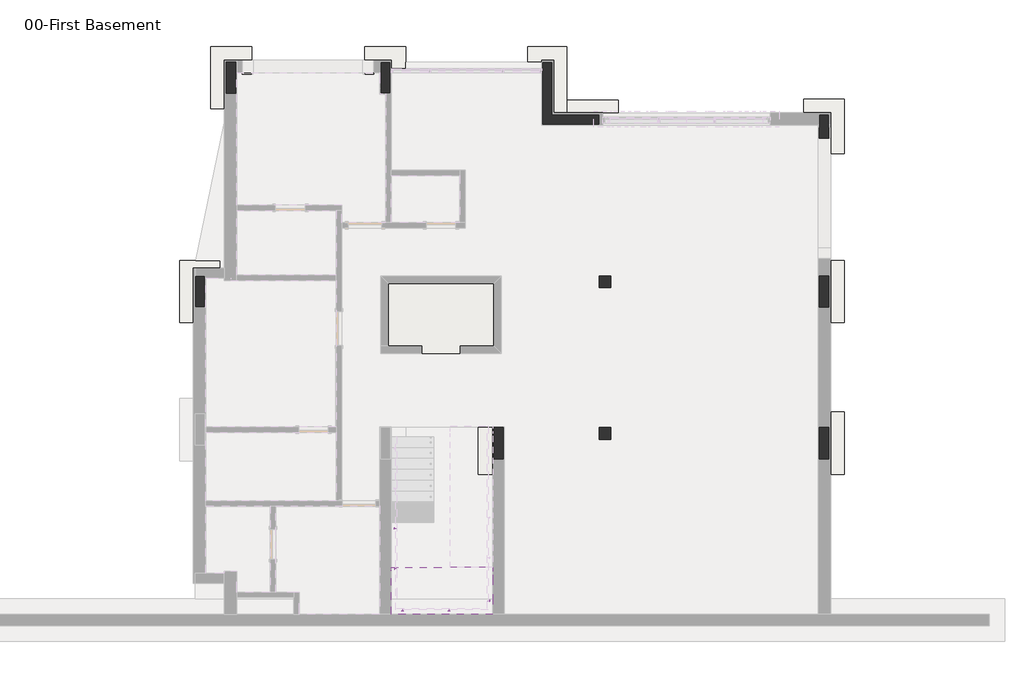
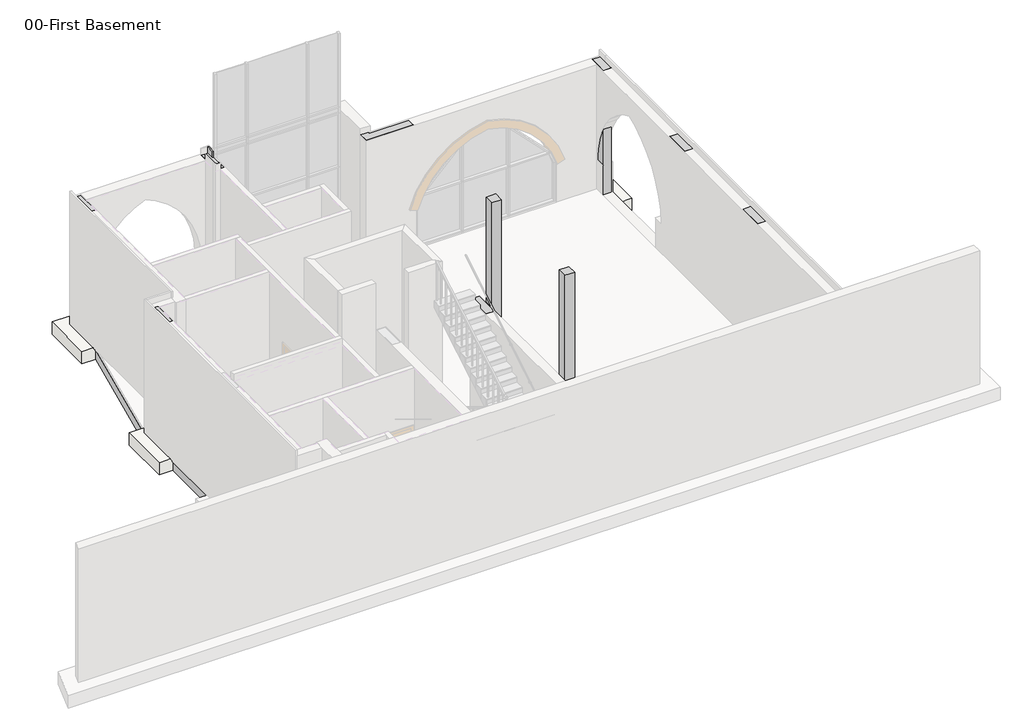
# One storey, part 4 of 5: 21 beams, 11 slabs, 10 columns, 5 proxies, 2 footings.
"""IFC4 building model written with IfcOpenShell, lengths in millimetres."""

from ifc_helpers import new_model, si_unit, frame, origin, place, context, project, spatial, polyline, outline, extrude, faceted_brep, transform, mapped, element, save
from components import m_support_metal_circular_m_support_metal_circular_cf76aa7a, structural_columns_first_basement_structural_columns_first_f4fd8d2e

model = new_model("IFC4")

# Units and contexts
model_context = context("Model", 3, world=origin())
ifc_project = project(units=[si_unit("LENGTHUNIT", "METRE", prefix="MILLI")], contexts=[model_context])

# Site, building, storey
site = spatial("IfcSite", under=ifc_project)
building = spatial("IfcBuilding", under=site)
storey = spatial("IfcBuildingStorey", under=building, Name="00-First Basement", Elevation=-4350.0)

# Beams
placement = place(None, origin())
element("IfcBeam", 1, ObjectType="M_Concrete-Rectangular Beam : 200 x 400mm", at=placement, inside=storey, context=model_context, shape_type="SweptSolid", body=[
    extrude(outline(polyline([(-14055.5689025, -1166.1034696), (-13855.5689025, -1166.1034696), (-13855.5689025, -3118.0271687), (-14055.5689025, -3118.0271687), (-14055.5689025, -1166.1034696)])), frame((0.0, 0.0, -4750.0), z_axis=(0.0, 0.0, 1.0), x_axis=(1.0, 0.0, 0.0)), (0.0, 0.0, 1.0), 300.0),
])
element("IfcBeam", 2, ObjectType="M_Concrete-Rectangular Beam : 200 x 400mm", at=placement, inside=storey, context=model_context, shape_type="Brep", body=[
    faceted_brep([(-13853.4825203, 433.8965304, -4750.0), (-13052.6714668, 4333.8965304, -4750.0), (-13052.6714668, 4333.8965304, -4450.0), (-13853.4825203, 433.8965304, -4450.0), (-13256.8442311, 4333.8965304, -4750.0), (-14057.6552846, 433.8965304, -4750.0), (-14057.6552846, 433.8965304, -4450.0), (-13280.5689025, 4218.3558946, -4450.0), (-13256.8442311, 4333.8965304, -4450.0)], [[[0, 1, 2, 3]], [[4, 1, 0, 5]], [[4, 5, 6, 7, 8]], [[1, 4, 8, 2]], [[5, 0, 3, 6]], [[3, 2, 8, 7, 6]]]),
])
element("IfcBeam", 3, ObjectType="M_Concrete-Rectangular Beam : 200 x 400mm", at=placement, inside=storey, context=model_context, shape_type="SweptSolid", body=[
    extrude(outline(polyline([(-12630.5689025, 5033.8965304), (-12630.5689025, 5233.8965304), (-9715.0580776, 5233.8965304), (-9715.0580776, 5033.8965304), (-12630.5689025, 5033.8965304)])), frame((0.0, 0.0, -4750.0), z_axis=(0.0, 0.0, 1.0), x_axis=(1.0, 0.0, 0.0)), (0.0, 0.0, 1.0), 300.0),
])
element("IfcBeam", 4, ObjectType="M_Concrete-Rectangular Beam : 200 x 400mm", at=placement, inside=storey, context=model_context, shape_type="SweptSolid", body=[
    extrude(outline(polyline([(-8665.0580776, 5033.8965304), (-8665.0580776, 5233.8965304), (-5532.8802351, 5233.8965304), (-5532.8802351, 5033.8965304), (-8665.0580776, 5033.8965304)])), frame((0.0, 0.0, -4750.0), z_axis=(0.0, 0.0, 1.0), x_axis=(1.0, 0.0, 0.0)), (0.0, 0.0, 1.0), 300.0),
])
element("IfcBeam", 5, ObjectType="M_Concrete-Rectangular Beam : 200 x 400mm", at=placement, inside=storey, context=model_context, shape_type="SweptSolid", body=[
    extrude(outline(polyline([(-3450.6988602, 433.8965304), (-3650.6988602, 433.8965304), (-3650.6988602, 3551.127499), (-3450.6988602, 3551.127499), (-3450.6988602, 433.8965304)])), frame((0.0, 0.0, -4750.0), z_axis=(0.0, 0.0, 1.0), x_axis=(1.0, 0.0, 0.0)), (0.0, 0.0, 1.0), 300.0),
])
element("IfcBeam", 6, ObjectType="M_Concrete-Rectangular Beam : 200 x 400mm", at=placement, inside=storey, context=model_context, shape_type="SweptSolid", body=[
    extrude(outline(polyline([(-4750.0, -5810.6988602), (-4750.0, -4100.6988602), (-4450.0, -4100.6988602), (-4450.0, -5807.8802351), (-4550.0, -5807.8802351), (-4550.0, -5810.6988602), (-4750.0, -5810.6988602)])), frame((0.0, -216.1034696, 0.0), z_axis=(0.0, 1.0, 0.0), x_axis=(0.0, 0.0, 1.0)), (0.0, 0.0, 1.0), 200.0),
])
element("IfcBeam", 7, ObjectType="M_Concrete-Rectangular Beam : 200 x 400mm", at=placement, inside=storey, context=model_context, shape_type="SweptSolid", body=[
    extrude(outline(polyline([(1556.4825148, -16.1034696), (1556.4825148, -216.1034696), (-3000.6988602, -216.1034696), (-3000.6988602, -16.1034696), (1556.4825148, -16.1034696)])), frame((0.0, 0.0, -4750.0), z_axis=(0.0, 0.0, 1.0), x_axis=(1.0, 0.0, 0.0)), (0.0, 0.0, 1.0), 300.0),
])
element("IfcBeam", 8, ObjectType="M_Concrete-Rectangular Beam : 200 x 400mm", at=placement, inside=storey, context=model_context, shape_type="SweptSolid", body=[
    extrude(outline(polyline([(2181.4825148, -3466.5009541), (1981.4825148, -3466.5009541), (1981.4825148, -1166.1034696), (2181.4825148, -1166.1034696), (2181.4825148, -3466.5009541)])), frame((0.0, 0.0, -4750.0), z_axis=(0.0, 0.0, 1.0), x_axis=(1.0, 0.0, 0.0)), (0.0, 0.0, 1.0), 300.0),
])
element("IfcBeam", 9, ObjectType="M_Concrete-Rectangular Beam : 200 x 400mm", at=placement, inside=storey, context=model_context, shape_type="SweptSolid", body=[
    extrude(outline(polyline([(-3650.6988602, -4566.5009541), (-3450.6988602, -4566.5009541), (-3450.6988602, -8262.9805769), (-3650.6988602, -8262.9805769), (-3650.6988602, -4566.5009541)])), frame((0.0, 0.0, -4750.0), z_axis=(0.0, 0.0, 1.0), x_axis=(1.0, 0.0, 0.0)), (0.0, 0.0, 1.0), 300.0),
])
element("IfcBeam", 10, ObjectType="M_Concrete-Rectangular Beam : 200 x 400mm", at=placement, inside=storey, context=model_context, shape_type="SweptSolid", body=[
    extrude(outline(polyline([(-6382.8802351, -5066.5009541), (-6182.8802351, -5066.5009541), (-6182.8802351, -8262.9805769), (-6382.8802351, -8262.9805769), (-6382.8802351, -5066.5009541)])), frame((0.0, 0.0, -4750.0), z_axis=(0.0, 0.0, 1.0), x_axis=(1.0, 0.0, 0.0)), (0.0, 0.0, 1.0), 300.0),
])
element("IfcBeam", 11, ObjectType="M_Concrete-Rectangular Beam : 200 x 400mm", at=placement, inside=storey, context=model_context, shape_type="SweptSolid", body=[
    extrude(outline(polyline([(-3650.6988602, -666.1034696), (-3450.6988602, -666.1034696), (-3450.6988602, -3466.5009541), (-3650.6988602, -3466.5009541), (-3650.6988602, -666.1034696)])), frame((0.0, 0.0, -4750.0), z_axis=(0.0, 0.0, 1.0), x_axis=(1.0, 0.0, 0.0)), (0.0, 0.0, 1.0), 300.0),
])
element("IfcBeam", 12, ObjectType="M_Concrete-Rectangular Beam : 200 x 400mm", at=placement, inside=storey, context=model_context, shape_type="SweptSolid", body=[
    extrude(outline(polyline([(-2365.2824965, -4750.0), (-3466.5009541, -4750.0), (-3466.5009541, -4450.0), (-2366.1034696, -4450.0), (-2366.1034696, -4550.0), (-2365.2824965, -4550.0), (-2365.2824965, -4750.0)])), frame((-6382.8802351, 0.0, 0.0), z_axis=(1.0, 0.0, 0.0), x_axis=(0.0, 1.0, 0.0)), (0.0, 0.0, 1.0), 200.0),
])
element("IfcBeam", 13, ObjectType="M_Concrete-Rectangular Beam : 200 x 400mm", at=placement, inside=storey, context=model_context, shape_type="SweptSolid", body=[
    extrude(outline(polyline([(-9290.0580776, -2366.1034696), (-9090.0580776, -2366.1034696), (-9090.0580776, -3466.5009541), (-9290.0580776, -3466.5009541), (-9290.0580776, -2366.1034696)])), frame((0.0, 0.0, -4750.0), z_axis=(0.0, 0.0, 1.0), x_axis=(1.0, 0.0, 0.0)), (0.0, 0.0, 1.0), 300.0),
])
element("IfcBeam", 14, ObjectType="M_Concrete-Rectangular Beam : 200 x 400mm", at=placement, inside=storey, context=model_context, shape_type="SweptSolid", body=[
    extrude(outline(polyline([(-8665.0580776, -4116.5009541), (-8665.0580776, -3916.5009541), (-6807.8802351, -3916.5009541), (-6807.8802351, -4116.5009541), (-8665.0580776, -4116.5009541)])), frame((0.0, 0.0, -4750.0), z_axis=(0.0, 0.0, 1.0), x_axis=(1.0, 0.0, 0.0)), (0.0, 0.0, 1.0), 300.0),
])
element("IfcBeam", 15, ObjectType="M_Concrete-Rectangular Beam : 200 x 400mm", at=placement, inside=storey, context=model_context, shape_type="SweptSolid", body=[
    extrude(outline(polyline([(-5757.8802351, -4116.5009541), (-5757.8802351, -3916.5009541), (-4100.6988602, -3916.5009541), (-4100.6988602, -4116.5009541), (-5757.8802351, -4116.5009541)])), frame((0.0, 0.0, -4750.0), z_axis=(0.0, 0.0, 1.0), x_axis=(1.0, 0.0, 0.0)), (0.0, 0.0, 1.0), 300.0),
])
element("IfcBeam", 16, ObjectType="M_Concrete-Rectangular Beam : 200 x 400mm", at=placement, inside=storey, context=model_context, shape_type="SweptSolid", body=[
    extrude(outline(polyline([(1556.4825148, -3916.5009541), (1556.4825148, -4116.5009541), (-3000.6988602, -4116.5009541), (-3000.6988602, -3916.5009541), (1556.4825148, -3916.5009541)])), frame((0.0, 0.0, -4750.0), z_axis=(0.0, 0.0, 1.0), x_axis=(1.0, 0.0, 0.0)), (0.0, 0.0, 1.0), 300.0),
])
element("IfcBeam", 17, ObjectType="M_Concrete-Rectangular Beam : 200 x 400mm", at=placement, inside=storey, context=model_context, shape_type="SweptSolid", body=[
    extrude(outline(polyline([(-9090.0580776, 433.8965304), (-9290.0580776, 433.8965304), (-9290.0580776, 4333.8965304), (-9090.0580776, 4333.8965304), (-9090.0580776, 433.8965304)])), frame((0.0, 0.0, -4750.0), z_axis=(0.0, 0.0, 1.0), x_axis=(1.0, 0.0, 0.0)), (0.0, 0.0, 1.0), 300.0),
])
element("IfcBeam", 18, ObjectType="M_Concrete-Rectangular Beam : 200 x 400mm", at=placement, inside=storey, context=model_context, shape_type="SweptSolid", body=[
    extrude(outline(polyline([(-9715.0580776, -16.1034696), (-9715.0580776, -216.1034696), (-13430.5689025, -216.1034696), (-13430.5689025, -16.1034696), (-9715.0580776, -16.1034696)])), frame((0.0, 0.0, -4750.0), z_axis=(0.0, 0.0, 1.0), x_axis=(1.0, 0.0, 0.0)), (0.0, 0.0, 1.0), 300.0),
])
element("IfcBeam", 19, ObjectType="M_Concrete-Rectangular Beam : 200 x 400mm", at=placement, inside=storey, context=model_context, shape_type="SweptSolid", body=[
    extrude(outline(polyline([(2181.4825148, 433.8965304), (1981.4825148, 433.8965304), (1981.4825148, 3176.127499), (2181.4825148, 3176.127499), (2181.4825148, 433.8965304)])), frame((0.0, 0.0, -4750.0), z_axis=(0.0, 0.0, 1.0), x_axis=(1.0, 0.0, 0.0)), (0.0, 0.0, 1.0), 300.0),
])
element("IfcBeam", 20, ObjectType="M_Concrete-Rectangular Beam : 200 x 400mm", at=placement, inside=storey, context=model_context, shape_type="SweptSolid", body=[
    extrude(outline(polyline([(1556.4825148, 4151.127499), (1556.4825148, 3951.127499), (-3200.6988602, 3951.127499), (-3200.6988602, 4151.127499), (1556.4825148, 4151.127499)])), frame((0.0, 0.0, -4750.0), z_axis=(0.0, 0.0, 1.0), x_axis=(1.0, 0.0, 0.0)), (0.0, 0.0, 1.0), 300.0),
])
element("IfcBeam", 21, ObjectType="M_Concrete-Rectangular Beam : 200 x 400mm", at=placement, inside=storey, context=model_context, shape_type="SweptSolid", body=[
    extrude(outline(polyline([(2181.4825148, -8262.9805769), (1981.4825148, -8262.9805769), (1981.4825148, -5066.5009541), (2181.4825148, -5066.5009541), (2181.4825148, -8262.9805769)])), frame((0.0, 0.0, -4750.0), z_axis=(0.0, 0.0, 1.0), x_axis=(1.0, 0.0, 0.0)), (0.0, 0.0, 1.0), 300.0),
])

# Proxies
m_support_metal_circular_m_support_metal_circular_shape = m_support_metal_circular_m_support_metal_circular_cf76aa7a(model_context)
element("IfcBuildingElementProxy", 22, Name="M_Support - Metal - Circular : M_Support - Metal - Circular", ObjectType="M_Support - Metal - Circular : M_Support - Metal - Circular", at=placement, inside=storey, context=model_context, shape_type="MappedRepresentation", body=[
    mapped(m_support_metal_circular_m_support_metal_circular_shape, transform((-8914.3044414, -6461.8731737, -1703.1891764), x_axis=(0.0, 1.0, 0.0), y_axis=(-1.0, 0.0, 0.0), z_axis=(0.0, 0.0, 1.0))),
])
element("IfcBuildingElementProxy", 23, Name="M_Support - Metal - Circular : M_Support - Metal - Circular", ObjectType="M_Support - Metal - Circular : M_Support - Metal - Circular", at=placement, inside=storey, context=model_context, shape_type="MappedRepresentation", body=[
    mapped(m_support_metal_circular_m_support_metal_circular_shape, transform((-8914.3044414, -7496.770337, -1105.0), x_axis=(0.0, 1.0, 0.0), y_axis=(-1.0, 0.0, 0.0), z_axis=(0.0, 0.0, 1.0))),
])
element("IfcBuildingElementProxy", 24, Name="M_Support - Metal - Circular : M_Support - Metal - Circular", ObjectType="M_Support - Metal - Circular : M_Support - Metal - Circular", at=placement, inside=storey, context=model_context, shape_type="MappedRepresentation", body=[
    mapped(m_support_metal_circular_m_support_metal_circular_shape, transform((-8750.1146813, -8532.5805769, -1105.0), x_axis=(-1.0, 0.0, 0.0), y_axis=(0.0, -1.0, 0.0), z_axis=(0.0, 0.0, 1.0))),
])
element("IfcBuildingElementProxy", 25, Name="M_Support - Metal - Circular : M_Support - Metal - Circular", ObjectType="M_Support - Metal - Circular : M_Support - Metal - Circular", at=placement, inside=storey, context=model_context, shape_type="MappedRepresentation", body=[
    mapped(m_support_metal_circular_m_support_metal_circular_shape, transform((-7550.1146813, -8532.5805769, -1105.0), x_axis=(-1.0, 0.0, 0.0), y_axis=(0.0, -1.0, 0.0), z_axis=(0.0, 0.0, 1.0))),
])
element("IfcBuildingElementProxy", 26, Name="M_Support - Metal - Circular : M_Support - Metal - Circular", ObjectType="M_Support - Metal - Circular : M_Support - Metal - Circular", at=placement, inside=storey, context=model_context, shape_type="MappedRepresentation", body=[
    mapped(m_support_metal_circular_m_support_metal_circular_shape, transform((-6558.2802351, -8324.4150231, -1105.0), x_axis=(0.0, -1.0, 0.0), y_axis=(1.0, 0.0, 0.0), z_axis=(0.0, 0.0, 1.0))),
])

# Columns
element("IfcColumn", 27, ObjectType="M_Concrete-Rectangular-Column : 250 x 600mm", at=placement, inside=storey, context=model_context, shape_type="Brep", body=[
    faceted_brep([(2206.4825148, 4176.127499, -4350.0), (2206.4825148, 3906.127499, -4350.0), (2206.4825148, 3576.127499, -4350.0), (1956.4825148, 3576.127499, -4350.0), (1956.4825148, 3906.127499, -4350.0), (1956.4825148, 4176.127499, -4350.0), (2206.4825148, 4176.127499, -200.0), (2206.4825148, 3576.127499, -200.0), (2206.4825148, 3576.127499, -2120.2646742), (2206.4825148, 3576.127499, -4250.0), (1956.4825148, 3576.127499, -200.0), (1956.4825148, 3576.127499, -2120.2646742), (1956.4825148, 3576.127499, -4250.0), (1956.4825148, 3906.127499, -200.0), (1956.4825148, 4176.127499, -200.0)], [[[0, 1, 2, 3, 4, 5]], [[2, 1, 0, 6, 7, 8, 9]], [[3, 2, 9, 8, 7, 10, 11, 12]], [[5, 4, 3, 12, 11, 10, 13, 14]], [[0, 5, 14, 6]], [[7, 6, 14, 13, 10]]]),
])
element("IfcColumn", 28, ObjectType="M_Concrete-Rectangular-Column : 250 x 800mm", at=placement, inside=storey, context=model_context, shape_type="SweptSolid", body=[
    extrude(outline(polyline([(-13030.5689025, 5533.8965304), (-13030.5689025, 4733.8965304), (-13280.5689025, 4733.8965304), (-13280.5689025, 5533.8965304), (-13030.5689025, 5533.8965304)])), frame((0.0, 0.0, -4350.0), z_axis=(0.0, 0.0, 1.0), x_axis=(1.0, 0.0, 0.0)), (0.0, 0.0, 1.0), 4150.0),
])
element("IfcColumn", 29, ObjectType="M_Concrete-Rectangular-Column : 250 x 800mm", at=placement, inside=storey, context=model_context, shape_type="Brep", body=[
    faceted_brep([(-9065.0580776, 5533.8965304, -4350.0), (-9065.0580776, 5358.8965304, -4350.0), (-9065.0580776, 5263.8965304, -4350.0), (-9065.0580776, 4733.8965304, -4350.0), (-9185.0580776, 4733.8965304, -4350.0), (-9315.0580776, 4733.8965304, -4350.0), (-9315.0580776, 4853.8965304, -4350.0), (-9315.0580776, 5263.8965304, -4350.0), (-9315.0580776, 5533.8965304, -4350.0), (-9065.0580776, 5533.8965304, 0.0), (-9065.0580776, 5283.8965304, 0.0), (-9065.0580776, 5283.8965304, -200.0), (-9065.0580776, 5263.8965304, -200.0), (-9065.0580776, 4733.8965304, -200.0), (-9185.0580776, 4733.8965304, -200.0), (-9315.0580776, 4733.8965304, -200.0), (-9315.0580776, 5263.8965304, -200.0), (-9315.0580776, 5533.8965304, -200.0), (-9304.0265453, 5533.8965304, -200.0), (-9115.0580776, 5533.8965304, -200.0), (-9115.0580776, 5533.8965304, 0.0), (-9115.0580776, 5283.8965304, 0.0), (-9115.0580776, 5283.8965304, -200.0)], [[[0, 1, 2, 3, 4, 5, 6, 7, 8]], [[3, 2, 1, 0, 9, 10, 11, 12, 13]], [[5, 4, 3, 13, 14, 15]], [[8, 7, 6, 5, 15, 16, 17]], [[0, 8, 17, 18, 19, 20, 9]], [[9, 20, 21, 10]], [[22, 19, 18, 17, 16, 15, 14, 13, 12, 11]], [[19, 22, 21, 20]], [[21, 22, 11, 10]]]),
])
element("IfcColumn", 30, ObjectType="M_Concrete-Rectangular-Column : 250 x 800mm", at=placement, inside=storey, context=model_context, shape_type="Brep", body=[
    faceted_brep([(-13830.5689025, 33.8965304, -4350.0), (-13830.5689025, -16.1034696, -4350.0), (-13830.5689025, -766.1034696, -4350.0), (-14080.5689025, -766.1034696, -4350.0), (-14080.5689025, 33.8965304, -4350.0), (-13830.5689025, 33.8965304, -200.0), (-13830.5689025, -16.1034696, -200.0), (-13830.5689025, -766.1034696, -200.0), (-14080.5689025, -766.1034696, -200.0), (-14080.5689025, 33.8965304, -200.0)], [[[0, 1, 2, 3, 4]], [[2, 1, 0, 5, 6, 7]], [[3, 2, 7, 8]], [[4, 3, 8, 9]], [[0, 4, 9, 5]], [[7, 6, 5, 9, 8]]]),
])
element("IfcColumn", 31, ObjectType="M_Concrete-Rectangular-Column : 250 x 800mm", at=placement, inside=storey, context=model_context, shape_type="SweptSolid", body=[
    extrude(outline(polyline([(-6157.8802351, -3866.5009541), (-6157.8802351, -4666.5009541), (-6407.8802351, -4666.5009541), (-6407.8802351, -3866.5009541), (-6157.8802351, -3866.5009541)])), frame((0.0, 0.0, -4350.0), z_axis=(0.0, 0.0, 1.0), x_axis=(1.0, 0.0, 0.0)), (0.0, 0.0, 1.0), 4150.0),
])
element("IfcColumn", 32, ObjectType="M_Concrete-Rectangular-Column : 250 x 800mm", at=placement, inside=storey, context=model_context, shape_type="SweptSolid", body=[
    extrude(outline(polyline([(2206.4825148, -3866.5009541), (2206.4825148, -4666.5009541), (1956.4825148, -4666.5009541), (1956.4825148, -3866.5009541), (2206.4825148, -3866.5009541)])), frame((0.0, 0.0, -4350.0), z_axis=(0.0, 0.0, 1.0), x_axis=(1.0, 0.0, 0.0)), (0.0, 0.0, 1.0), 4150.0),
])
element("IfcColumn", 33, ObjectType="M_Concrete-Rectangular-Column : 250 x 800mm", at=placement, inside=storey, context=model_context, shape_type="SweptSolid", body=[
    extrude(outline(polyline([(2206.4825148, 33.8965304), (2206.4825148, -766.1034696), (1956.4825148, -766.1034696), (1956.4825148, 33.8965304), (2206.4825148, 33.8965304)])), frame((0.0, 0.0, -4350.0), z_axis=(0.0, 0.0, 1.0), x_axis=(1.0, 0.0, 0.0)), (0.0, 0.0, 1.0), 4150.0),
])
element("IfcColumn", 34, ObjectType="M_Concrete-Rectangular-Column : 300 x 300mm", at=placement, inside=storey, context=model_context, shape_type="SweptSolid", body=[
    extrude(outline(polyline([(-3400.6988602, 33.8965304), (-3400.6988602, -266.1034696), (-3700.6988602, -266.1034696), (-3700.6988602, 33.8965304), (-3400.6988602, 33.8965304)])), frame((0.0, 0.0, -4350.0), z_axis=(0.0, 0.0, 1.0), x_axis=(1.0, 0.0, 0.0)), (0.0, 0.0, 1.0), 4150.0),
])
element("IfcColumn", 35, ObjectType="M_Concrete-Rectangular-Column : 300 x 300mm", at=placement, inside=storey, context=model_context, shape_type="SweptSolid", body=[
    extrude(outline(polyline([(-3400.6988602, -3866.5009541), (-3400.6988602, -4166.5009541), (-3700.6988602, -4166.5009541), (-3700.6988602, -3866.5009541), (-3400.6988602, -3866.5009541)])), frame((0.0, 0.0, -4350.0), z_axis=(0.0, 0.0, 1.0), x_axis=(1.0, 0.0, 0.0)), (0.0, 0.0, 1.0), 4150.0),
])
structural_columns_first_basement_structural_columns_first_shape = structural_columns_first_basement_structural_columns_first_f4fd8d2e(model_context)
element("IfcColumn", 36, ObjectType="Structural Columns First Basement : Structural Columns First Basement", at=placement, inside=storey, context=model_context, shape_type="MappedRepresentation", body=[
    mapped(structural_columns_first_basement_structural_columns_first_shape, transform((0.0, 0.0, 0.0), x_axis=(1.0, 0.0, 0.0), y_axis=(0.0, 1.0, 0.0), z_axis=(0.0, 0.0, 1.0))),
])

# Footings
element("IfcFooting", 37, ObjectType="Bearing Footing - 1000 x 400", at=placement, inside=storey, context=model_context, shape_type="Brep", body=[
    faceted_brep([(-5532.8802351, 5933.8965304, -4350.0), (-4532.8802351, 5933.8965304, -4350.0), (-4532.8802351, 5933.8965304, -4750.0), (-5532.8802351, 5933.8965304, -4750.0), (-4532.8802351, 3551.127499, -4350.0), (-4532.8802351, 4551.127499, -4350.0), (-5532.8802351, 3551.127499, -4350.0), (-5532.8802351, 3551.127499, -4750.0), (-5532.8802351, 5233.8965304, -4750.0), (-5532.8802351, 5033.8965304, -4750.0), (-4532.8802351, 3551.127499, -4750.0), (-4532.8802351, 4551.127499, -4750.0)], [[[0, 1, 2, 3]], [[4, 5, 1, 0, 6]], [[7, 6, 0, 3, 8, 9]], [[10, 7, 9, 8, 3, 2, 11]], [[4, 10, 11, 2, 1, 5]], [[4, 6, 7, 10]]]),
])
element("IfcFooting", 38, ObjectType="Bearing Footing - 1000 x 400", at=placement, inside=storey, context=model_context, shape_type="Brep", body=[
    faceted_brep([(-3200.6988602, 3551.127499, -4350.0), (-3200.6988602, 3551.127499, -4750.0), (-3200.6988602, 3951.127499, -4750.0), (-3200.6988602, 4151.127499, -4750.0), (-3200.6988602, 4551.127499, -4750.0), (-3200.6988602, 4551.127499, -4350.0), (-4532.8802351, 4551.127499, -4350.0), (-4532.8802351, 3551.127499, -4350.0), (-4532.8802351, 3551.127499, -4750.0), (-3650.6988602, 3551.127499, -4750.0), (-3450.6988602, 3551.127499, -4750.0), (-4532.8802351, 4551.127499, -4750.0)], [[[0, 1, 2, 3, 4, 5]], [[0, 5, 6, 7]], [[1, 0, 7, 8, 9, 10]], [[4, 3, 2, 1, 10, 9, 8, 11]], [[5, 4, 11, 6]], [[7, 6, 11, 8]]]),
])

# Slabs
element("IfcSlab", 39, ObjectType="200mm Foundation Slab", at=placement, inside=storey, context=model_context, shape_type="Brep", body=[
    faceted_brep([(-5807.8802351, 433.8965304, -4550.0), (-5807.8802351, -16.1034696, -4550.0), (-5807.8802351, -216.1034696, -4550.0), (-5807.8802351, -2366.1034696, -4550.0), (-6182.8802351, -2366.1034696, -4550.0), (-6382.8802351, -2366.1034696, -4550.0), (-9715.0580776, -2366.1034696, -4550.0), (-9715.0580776, 433.8965304, -4550.0), (-5807.8802351, 433.8965304, -4350.0), (-9715.0580776, 433.8965304, -4350.0), (-9715.0580776, -2366.1034696, -4350.0), (-5807.8802351, -2366.1034696, -4350.0), (-5807.8802351, 433.8965304, -4450.0), (-5807.8802351, -2366.1034696, -4450.0), (-9715.0580776, -2366.1034696, -4450.0), (-9715.0580776, 433.8965304, -4450.0)], [[[0, 1, 2, 3, 4, 5, 6, 7]], [[8, 9, 10, 11]], [[3, 2, 1, 0, 12, 8, 11, 13]], [[6, 5, 4, 3, 13, 11, 10, 14]], [[7, 6, 14, 10, 9, 15]], [[0, 7, 15, 9, 8, 12]]]),
])
element("IfcSlab", 40, ObjectType="300mm Thickness", at=placement, inside=storey, context=model_context, shape_type="SolidModel", body=[
    faceted_brep([(-7944.7044414, -7462.9805769, -2105.0), (-7944.7044414, -7482.9805769, -2105.0), (-9044.7044414, -7482.9805769, -2105.0), (-9044.7044414, -7553.3467521, -2105.0), (-9044.7044414, -8662.9805769, -2105.0), (-6427.8802351, -8662.9805769, -2105.0), (-6427.8802351, -7652.6144017, -2105.0), (-6427.8802351, -7462.9805769, -2105.0), (-6427.8802351, -7442.9805769, -2105.0), (-7527.8802351, -7442.9805769, -2105.0), (-7527.8802351, -7462.9805769, -2105.0), (-7944.7044414, -7482.9805769, -2272.3076923), (-7944.7044414, -7482.9805769, -2405.0), (-7944.7044414, -7482.9805769, -2447.0457228), (-9044.7044414, -7482.9805769, -2447.0457228), (-9044.7044414, -7482.9805769, -2272.3076923), (-9044.7044414, -7553.3467521, -2405.0), (-9044.7044414, -8662.9805769, -2405.0), (-6427.8802351, -8662.9805769, -2405.0), (-6427.8802351, -7652.6144017, -2405.0), (-6427.8802351, -7462.9805769, -2291.68858), (-6427.8802351, -7442.9805769, -2279.7380305), (-7527.8802351, -7442.9805769, -2279.7380305), (-7527.8802351, -7462.9805769, -2291.68858), (-7527.8802351, -7462.9805769, -2405.0), (-7944.7044414, -7462.9805769, -2405.0), (-7527.8802351, -7652.6144017, -2405.0), (-7944.7044414, -7553.3467521, -2405.0)], [[[0, 1, 2, 3, 4, 5, 6, 7, 8, 9, 10]], [[2, 1, 11, 12, 13, 14, 15]], [[2, 15, 14, 16, 17, 4, 3]], [[5, 4, 17, 18]], [[5, 18, 19, 20, 7, 6]], [[9, 8, 21, 22]], [[0, 10, 23, 24, 25]], [[24, 26, 19, 18, 17, 16, 27, 12, 25]], [[26, 24, 23]], [[27, 16, 14, 13]], [[12, 27, 13]], [[19, 26, 23, 22, 21, 20]], [[1, 0, 25, 12, 11]], [[8, 7, 20, 21]], [[10, 9, 22, 23]]]),
    extrude(outline(polyline([(-7944.7044414, -7462.9805769), (-7527.8802351, -7462.9805769), (-7527.8802351, -7442.9805769), (-6427.8802351, -7442.9805769), (-6427.8802351, -7462.9805769), (-6427.8802351, -8662.9805769), (-9044.7044414, -8662.9805769), (-9044.7044414, -7462.9805769), (-7944.7044414, -7462.9805769)])), frame((0.0, 0.0, -2105.0), z_axis=(0.0, 0.0, 1.0), x_axis=(1.0, 0.0, 0.0)), (0.0, 0.0, 1.0), 30.0),
])
element("IfcSlab", 41, ObjectType="M_Footing-Rectangular : 1050 x 1400 x 400mm", at=placement, inside=storey, context=model_context, shape_type="Brep", body=[
    faceted_brep([(2606.4825148, 4576.127499, -4350.0), (1556.4825148, 4576.127499, -4350.0), (1556.4825148, 4176.127499, -4350.0), (1556.4825148, 3176.127499, -4350.0), (2206.4825148, 3176.127499, -4350.0), (2606.4825148, 3176.127499, -4350.0), (2606.4825148, 4576.127499, -4750.0), (2606.4825148, 3176.127499, -4750.0), (2181.4825148, 3176.127499, -4750.0), (1981.4825148, 3176.127499, -4750.0), (1556.4825148, 3176.127499, -4750.0), (1556.4825148, 3951.127499, -4750.0), (1556.4825148, 4151.127499, -4750.0), (1556.4825148, 4576.127499, -4750.0), (1556.4825148, 3176.127499, -4450.0)], [[[0, 1, 2, 3, 4, 5]], [[6, 7, 8, 9, 10, 11, 12, 13]], [[1, 0, 6, 13]], [[3, 2, 1, 13, 12, 11, 10, 14]], [[5, 4, 3, 14, 10, 9, 8, 7]], [[0, 5, 7, 6]]]),
])
element("IfcSlab", 42, ObjectType="M_Footing-Rectangular : 1050 x 1600 x 400mm", at=placement, inside=storey, context=model_context, shape_type="Brep", body=[
    faceted_brep([(-12630.5689025, 5933.8965304, -4350.0), (-13680.5689025, 5933.8965304, -4350.0), (-13680.5689025, 4333.8965304, -4350.0), (-13280.5689025, 4333.8965304, -4350.0), (-12630.5689025, 4333.8965304, -4350.0), (-12630.5689025, 5533.8965304, -4350.0), (-12630.5689025, 5933.8965304, -4750.0), (-12630.5689025, 5233.8965304, -4750.0), (-12630.5689025, 5033.8965304, -4750.0), (-12630.5689025, 4333.8965304, -4750.0), (-13052.6714668, 4333.8965304, -4750.0), (-13256.8442311, 4333.8965304, -4750.0), (-13680.5689025, 4333.8965304, -4750.0), (-13680.5689025, 5933.8965304, -4750.0), (-12630.5689025, 4333.8965304, -4450.0)], [[[0, 1, 2, 3, 4, 5]], [[6, 7, 8, 9, 10, 11, 12, 13]], [[1, 0, 6, 13]], [[2, 1, 13, 12]], [[4, 3, 2, 12, 11, 10, 9, 14]], [[0, 5, 4, 14, 9, 8, 7, 6]]]),
])
element("IfcSlab", 43, ObjectType="M_Footing-Rectangular : 1050 x 1600 x 400mm", at=placement, inside=storey, context=model_context, shape_type="Brep", body=[
    faceted_brep([(-8665.0580776, 5933.8965304, -4350.0), (-9715.0580776, 5933.8965304, -4350.0), (-9715.0580776, 5533.8965304, -4350.0), (-9715.0580776, 4333.8965304, -4350.0), (-8665.0580776, 4333.8965304, -4350.0), (-8665.0580776, 5533.8965304, -4350.0), (-8665.0580776, 5933.8965304, -4750.0), (-8665.0580776, 5233.8965304, -4750.0), (-8665.0580776, 5033.8965304, -4750.0), (-8665.0580776, 4333.8965304, -4750.0), (-9090.0580776, 4333.8965304, -4750.0), (-9290.0580776, 4333.8965304, -4750.0), (-9715.0580776, 4333.8965304, -4750.0), (-9715.0580776, 5033.8965304, -4750.0), (-9715.0580776, 5233.8965304, -4750.0), (-9715.0580776, 5933.8965304, -4750.0), (-9715.0580776, 4333.8965304, -4450.0), (-8665.0580776, 4333.8965304, -4450.0)], [[[0, 1, 2, 3, 4, 5]], [[6, 7, 8, 9, 10, 11, 12, 13, 14, 15]], [[1, 0, 6, 15]], [[3, 2, 1, 15, 14, 13, 12, 16]], [[4, 3, 16, 12, 11, 10, 9, 17]], [[0, 5, 4, 17, 9, 8, 7, 6]]]),
])
element("IfcSlab", 44, ObjectType="M_Footing-Rectangular : 1050 x 1600 x 400mm", at=placement, inside=storey, context=model_context, shape_type="Brep", body=[
    faceted_brep([(-13430.5689025, 433.8965304, -4350.0), (-14057.6552846, 433.8965304, -4350.0), (-14480.5689025, 433.8965304, -4350.0), (-14480.5689025, -1166.1034696, -4350.0), (-14080.5689025, -1166.1034696, -4350.0), (-13430.5689025, -1166.1034696, -4350.0), (-13430.5689025, 433.8965304, -4750.0), (-13430.5689025, -16.1034696, -4750.0), (-13430.5689025, -216.1034696, -4750.0), (-13430.5689025, -1166.1034696, -4750.0), (-13855.5689025, -1166.1034696, -4750.0), (-14055.5689025, -1166.1034696, -4750.0), (-14480.5689025, -1166.1034696, -4750.0), (-14480.5689025, 433.8965304, -4750.0), (-14057.6552846, 433.8965304, -4750.0), (-13853.4825203, 433.8965304, -4750.0), (-13430.5689025, 433.8965304, -4450.0), (-13430.5689025, -1166.1034696, -4450.0)], [[[0, 1, 2, 3, 4, 5]], [[6, 7, 8, 9, 10, 11, 12, 13, 14, 15]], [[2, 1, 0, 16, 6, 15, 14, 13]], [[3, 2, 13, 12]], [[5, 4, 3, 12, 11, 10, 9, 17]], [[0, 5, 17, 9, 8, 7, 6, 16]]]),
])
element("IfcSlab", 45, ObjectType="M_Footing-Rectangular : 1050 x 1600 x 400mm", at=placement, inside=storey, context=model_context, shape_type="Brep", body=[
    faceted_brep([(-5757.8802351, -3466.5009541, -4350.0), (-6807.8802351, -3466.5009541, -4350.0), (-6807.8802351, -5066.5009541, -4350.0), (-5757.8802351, -5066.5009541, -4350.0), (-5757.8802351, -3466.5009541, -4750.0), (-5757.8802351, -3916.5009541, -4750.0), (-5757.8802351, -4116.5009541, -4750.0), (-5757.8802351, -5066.5009541, -4750.0), (-6182.8802351, -5066.5009541, -4750.0), (-6382.8802351, -5066.5009541, -4750.0), (-6807.8802351, -5066.5009541, -4750.0), (-6807.8802351, -4116.5009541, -4750.0), (-6807.8802351, -3916.5009541, -4750.0), (-6807.8802351, -3466.5009541, -4750.0), (-6382.8802351, -3466.5009541, -4750.0), (-6182.8802351, -3466.5009541, -4750.0), (-5757.8802351, -3466.5009541, -4450.0), (-6807.8802351, -3466.5009541, -4450.0), (-6807.8802351, -5066.5009541, -4450.0), (-5757.8802351, -5066.5009541, -4450.0)], [[[0, 1, 2, 3]], [[4, 5, 6, 7, 8, 9, 10, 11, 12, 13, 14, 15]], [[1, 0, 16, 4, 15, 14, 13, 17]], [[2, 1, 17, 13, 12, 11, 10, 18]], [[3, 2, 18, 10, 9, 8, 7, 19]], [[0, 3, 19, 7, 6, 5, 4, 16]]]),
])
element("IfcSlab", 46, ObjectType="M_Footing-Rectangular : 1050 x 1600 x 400mm", at=placement, inside=storey, context=model_context, shape_type="Brep", body=[
    faceted_brep([(2606.4825148, -3466.5009541, -4350.0), (2206.4825148, -3466.5009541, -4350.0), (1556.4825148, -3466.5009541, -4350.0), (1556.4825148, -5066.5009541, -4350.0), (2206.4825148, -5066.5009541, -4350.0), (2606.4825148, -5066.5009541, -4350.0), (2606.4825148, -3466.5009541, -4750.0), (2606.4825148, -5066.5009541, -4750.0), (2181.4825148, -5066.5009541, -4750.0), (1981.4825148, -5066.5009541, -4750.0), (1556.4825148, -5066.5009541, -4750.0), (1556.4825148, -4116.5009541, -4750.0), (1556.4825148, -3916.5009541, -4750.0), (1556.4825148, -3466.5009541, -4750.0), (1981.4825148, -3466.5009541, -4750.0), (2181.4825148, -3466.5009541, -4750.0), (1556.4825148, -3466.5009541, -4450.0), (1556.4825148, -5066.5009541, -4450.0)], [[[0, 1, 2, 3, 4, 5]], [[6, 7, 8, 9, 10, 11, 12, 13, 14, 15]], [[2, 1, 0, 6, 15, 14, 13, 16]], [[3, 2, 16, 13, 12, 11, 10, 17]], [[5, 4, 3, 17, 10, 9, 8, 7]], [[0, 5, 7, 6]]]),
])
element("IfcSlab", 47, ObjectType="M_Footing-Rectangular : 1050 x 1600 x 400mm", at=placement, inside=storey, context=model_context, shape_type="Brep", body=[
    faceted_brep([(2606.4825148, 433.8965304, -4350.0), (2206.4825148, 433.8965304, -4350.0), (1556.4825148, 433.8965304, -4350.0), (1556.4825148, -1166.1034696, -4350.0), (2206.4825148, -1166.1034696, -4350.0), (2606.4825148, -1166.1034696, -4350.0), (2606.4825148, 433.8965304, -4750.0), (2606.4825148, -1166.1034696, -4750.0), (2181.4825148, -1166.1034696, -4750.0), (1981.4825148, -1166.1034696, -4750.0), (1556.4825148, -1166.1034696, -4750.0), (1556.4825148, -216.1034696, -4750.0), (1556.4825148, -16.1034696, -4750.0), (1556.4825148, 433.8965304, -4750.0), (1981.4825148, 433.8965304, -4750.0), (2181.4825148, 433.8965304, -4750.0), (1556.4825148, 433.8965304, -4450.0), (1556.4825148, -1166.1034696, -4450.0)], [[[0, 1, 2, 3, 4, 5]], [[6, 7, 8, 9, 10, 11, 12, 13, 14, 15]], [[2, 1, 0, 6, 15, 14, 13, 16]], [[3, 2, 16, 13, 12, 11, 10, 17]], [[5, 4, 3, 17, 10, 9, 8, 7]], [[0, 5, 7, 6]]]),
])
element("IfcSlab", 48, ObjectType="M_Footing-Rectangular : 1100 x 1100 x 400mm", at=placement, inside=storey, context=model_context, shape_type="Brep", body=[
    faceted_brep([(-3000.6988602, 433.8965304, -4350.0), (-4100.6988602, 433.8965304, -4350.0), (-4100.6988602, -666.1034696, -4350.0), (-3000.6988602, -666.1034696, -4350.0), (-3000.6988602, 433.8965304, -4750.0), (-3000.6988602, -16.1034696, -4750.0), (-3000.6988602, -216.1034696, -4750.0), (-3000.6988602, -666.1034696, -4750.0), (-3450.6988602, -666.1034696, -4750.0), (-3650.6988602, -666.1034696, -4750.0), (-4100.6988602, -666.1034696, -4750.0), (-4100.6988602, -216.1034696, -4750.0), (-4100.6988602, -16.1034696, -4750.0), (-4100.6988602, 433.8965304, -4750.0), (-3650.6988602, 433.8965304, -4750.0), (-3450.6988602, 433.8965304, -4750.0), (-3000.6988602, 433.8965304, -4450.0), (-4100.6988602, 433.8965304, -4450.0), (-4100.6988602, -666.1034696, -4450.0), (-3000.6988602, -666.1034696, -4450.0)], [[[0, 1, 2, 3]], [[4, 5, 6, 7, 8, 9, 10, 11, 12, 13, 14, 15]], [[1, 0, 16, 4, 15, 14, 13, 17]], [[2, 1, 17, 13, 12, 11, 10, 18]], [[3, 2, 18, 10, 9, 8, 7, 19]], [[0, 3, 19, 7, 6, 5, 4, 16]]]),
])
element("IfcSlab", 49, ObjectType="M_Footing-Rectangular : 1100 x 1100 x 400mm", at=placement, inside=storey, context=model_context, shape_type="Brep", body=[
    faceted_brep([(-3000.6988602, -3466.5009541, -4350.0), (-4100.6988602, -3466.5009541, -4350.0), (-4100.6988602, -4566.5009541, -4350.0), (-3000.6988602, -4566.5009541, -4350.0), (-3000.6988602, -3466.5009541, -4750.0), (-3000.6988602, -3916.5009541, -4750.0), (-3000.6988602, -4116.5009541, -4750.0), (-3000.6988602, -4566.5009541, -4750.0), (-3450.6988602, -4566.5009541, -4750.0), (-3650.6988602, -4566.5009541, -4750.0), (-4100.6988602, -4566.5009541, -4750.0), (-4100.6988602, -4116.5009541, -4750.0), (-4100.6988602, -3916.5009541, -4750.0), (-4100.6988602, -3466.5009541, -4750.0), (-3650.6988602, -3466.5009541, -4750.0), (-3450.6988602, -3466.5009541, -4750.0), (-3000.6988602, -3466.5009541, -4450.0), (-4100.6988602, -3466.5009541, -4450.0), (-4100.6988602, -4566.5009541, -4450.0), (-3000.6988602, -4566.5009541, -4450.0)], [[[0, 1, 2, 3]], [[4, 5, 6, 7, 8, 9, 10, 11, 12, 13, 14, 15]], [[1, 0, 16, 4, 15, 14, 13, 17]], [[2, 1, 17, 13, 12, 11, 10, 18]], [[3, 2, 18, 10, 9, 8, 7, 19]], [[0, 3, 19, 7, 6, 5, 4, 16]]]),
])

save(model, "model.ifc")
